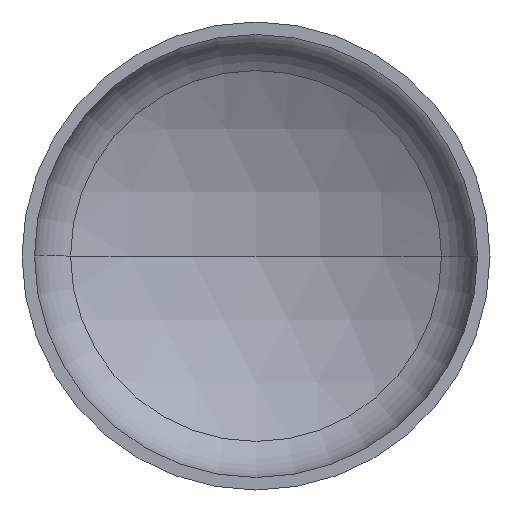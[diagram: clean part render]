
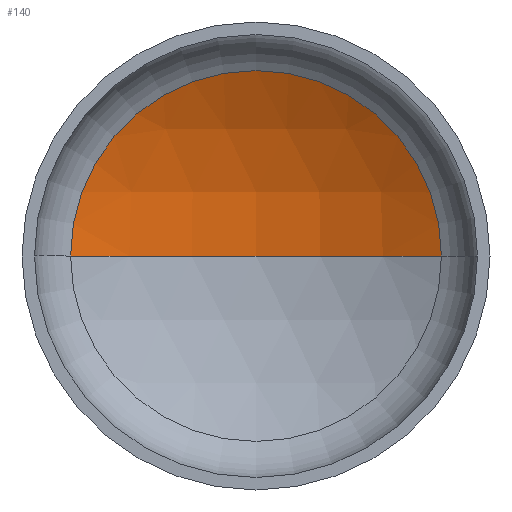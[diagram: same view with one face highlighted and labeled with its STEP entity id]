
A CAD part, front view. The second image highlights one B-rep face of the part: STEP entity #140.
In plain terms, the highlighted spherical face has radius 1440 mm.
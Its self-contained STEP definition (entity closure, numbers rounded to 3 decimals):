
#4 = CARTESIAN_POINT ( 'NONE',  ( 0., -862.075, 0. ) ) ;
#13 = CARTESIAN_POINT ( 'NONE',  ( 0., -862.075, 0. ) ) ;
#26 = CARTESIAN_POINT ( 'NONE',  ( -713.202, 388.902, 0. ) ) ;
#27 = EDGE_LOOP ( 'NONE', ( #89, #78, #29 ) ) ;
#28 = VERTEX_POINT ( 'NONE', #269 ) ;
#29 = ORIENTED_EDGE ( 'NONE', *, *, #113, .T. ) ;
#35 = AXIS2_PLACEMENT_3D ( 'NONE', #198, #255, #196 ) ;
#50 = AXIS2_PLACEMENT_3D ( 'NONE', #13, #362, #210 ) ;
#51 = AXIS2_PLACEMENT_3D ( 'NONE', #4, #144, #396 ) ;
#52 = AXIS2_PLACEMENT_3D ( 'NONE', #180, #183, #235 ) ;
#55 = VERTEX_POINT ( 'NONE', #223 ) ;
#78 = ORIENTED_EDGE ( 'NONE', *, *, #115, .T. ) ;
#89 = ORIENTED_EDGE ( 'NONE', *, *, #120, .F. ) ;
#113 = EDGE_CURVE ( 'NONE', #55, #125, #403, .T. ) ;
#115 = EDGE_CURVE ( 'NONE', #28, #55, #208, .T. ) ;
#120 = EDGE_CURVE ( 'NONE', #28, #125, #273, .T. ) ;
#125 = VERTEX_POINT ( 'NONE', #26 ) ;
#140 = ADVANCED_FACE ( 'NONE', ( #151 ), #339, .F. ) ;
#144 = DIRECTION ( 'NONE',  ( 0., 0., -1. ) ) ;
#151 = FACE_OUTER_BOUND ( 'NONE', #27, .T. ) ;
#180 = CARTESIAN_POINT ( 'NONE',  ( 0., 388.902, 0. ) ) ;
#183 = DIRECTION ( 'NONE',  ( 0., -1., 0. ) ) ;
#196 = DIRECTION ( 'NONE',  ( -1., 0., 0. ) ) ;
#198 = CARTESIAN_POINT ( 'NONE',  ( 0., -862.075, 0. ) ) ;
#208 = CIRCLE ( 'NONE', #51, 1440. ) ;
#210 = DIRECTION ( 'NONE',  ( 1., 0., 0. ) ) ;
#223 = CARTESIAN_POINT ( 'NONE',  ( 713.202, 388.902, 0. ) ) ;
#235 = DIRECTION ( 'NONE',  ( 1., 0., 0. ) ) ;
#255 = DIRECTION ( 'NONE',  ( 0., 0., -1. ) ) ;
#269 = CARTESIAN_POINT ( 'NONE',  ( 0., 577.925, 0. ) ) ;
#273 = CIRCLE ( 'NONE', #50, 1440. ) ;
#339 = SPHERICAL_SURFACE ( 'NONE', #35, 1440. ) ;
#362 = DIRECTION ( 'NONE',  ( 0., 0., 1. ) ) ;
#396 = DIRECTION ( 'NONE',  ( -1., 0., 0. ) ) ;
#403 = CIRCLE ( 'NONE', #52, 713.202 ) ;
